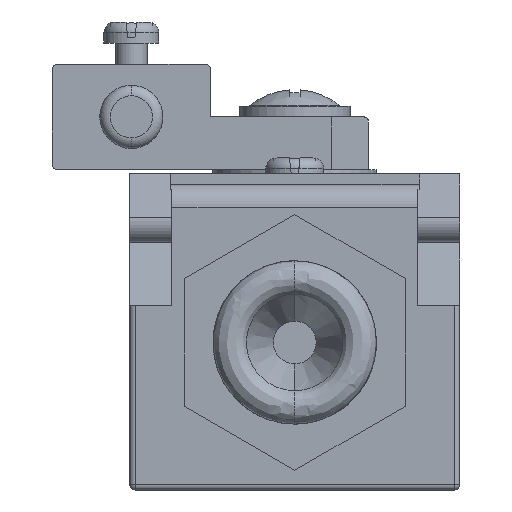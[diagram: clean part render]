
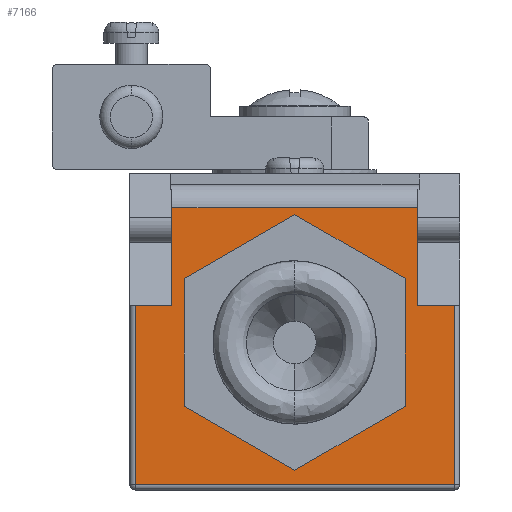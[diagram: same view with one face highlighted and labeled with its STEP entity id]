
A CAD part, front view. The second image highlights one B-rep face of the part: STEP entity #7166.
In plain terms, the highlighted planar face has unit normal (0, -1, 0).
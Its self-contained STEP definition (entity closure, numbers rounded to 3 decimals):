
#508 = ORIENTED_EDGE ( 'NONE', *, *, #6828, .F. ) ;
#673 = ORIENTED_EDGE ( 'NONE', *, *, #6687, .T. ) ;
#675 = ORIENTED_EDGE ( 'NONE', *, *, #6686, .T. ) ;
#677 = ORIENTED_EDGE ( 'NONE', *, *, #6688, .T. ) ;
#678 = ORIENTED_EDGE ( 'NONE', *, *, #7143, .T. ) ;
#679 = ORIENTED_EDGE ( 'NONE', *, *, #6891, .T. ) ;
#894 = LINE ( 'NONE', #895, #2763 ) ;
#895 = CARTESIAN_POINT ( 'NONE',  ( 0., -30., 15.424 ) ) ;
#896 = DIRECTION ( 'NONE',  ( -0.866, 0., -0.5 ) ) ;
#924 = LINE ( 'NONE', #925, #2748 ) ;
#925 = CARTESIAN_POINT ( 'NONE',  ( 10.5, -30., 9.362 ) ) ;
#926 = DIRECTION ( 'NONE',  ( -0.866, 0., 0.5 ) ) ;
#933 = LINE ( 'NONE', #934, #2798 ) ;
#934 = CARTESIAN_POINT ( 'NONE',  ( -15.15, -30., 10.7 ) ) ;
#935 = DIRECTION ( 'NONE',  ( 0., 0., -1. ) ) ;
#939 = LINE ( 'NONE', #940, #2824 ) ;
#940 = CARTESIAN_POINT ( 'NONE',  ( -10.5, -30., -2.762 ) ) ;
#941 = DIRECTION ( 'NONE',  ( 0.866, 0., -0.5 ) ) ;
#945 = LINE ( 'NONE', #946, #2623 ) ;
#946 = CARTESIAN_POINT ( 'NONE',  ( 15.15, -30., 10.7 ) ) ;
#947 = DIRECTION ( 'NONE',  ( 0., 0., 1. ) ) ;
#957 = LINE ( 'NONE', #958, #2791 ) ;
#958 = CARTESIAN_POINT ( 'NONE',  ( 11.65, -30., 6.8 ) ) ;
#959 = DIRECTION ( 'NONE',  ( 0., 0., -1. ) ) ;
#1147 = PLANE ( 'NONE',  #2772 ) ;
#1148 = CARTESIAN_POINT ( 'NONE',  ( -15.65, -30., 19.3 ) ) ;
#1149 = DIRECTION ( 'NONE',  ( 0., 1., 0. ) ) ;
#1150 = DIRECTION ( 'NONE',  ( 0., 0., 1. ) ) ;
#2623 = VECTOR ( 'NONE', #947, 1000. ) ;
#2748 = VECTOR ( 'NONE', #926, 1000. ) ;
#2763 = VECTOR ( 'NONE', #896, 1000. ) ;
#2772 = AXIS2_PLACEMENT_3D ( 'NONE', #1148, #1149, #1150 ) ;
#2782 = FACE_BOUND ( 'NONE', #5273, .T. ) ;
#2783 = FACE_OUTER_BOUND ( 'NONE', #5271, .T. ) ;
#2791 = VECTOR ( 'NONE', #959, 1000. ) ;
#2798 = VECTOR ( 'NONE', #935, 1000. ) ;
#2824 = VECTOR ( 'NONE', #941, 1000. ) ;
#3156 = VECTOR ( 'NONE', #6475, 1000. ) ;
#3158 = VECTOR ( 'NONE', #6472, 1000. ) ;
#3159 = VECTOR ( 'NONE', #6469, 1000. ) ;
#3161 = VECTOR ( 'NONE', #6466, 1000. ) ;
#4408 = VECTOR ( 'NONE', #8279, 1000. ) ;
#4432 = VECTOR ( 'NONE', #8276, 1000. ) ;
#4606 = VECTOR ( 'NONE', #8471, 1000. ) ;
#4610 = VECTOR ( 'NONE', #8468, 1000. ) ;
#5271 = EDGE_LOOP ( 'NONE', ( #673, #677, #675, #678, #679, #9803, #9801, #9809 ) ) ;
#5273 = EDGE_LOOP ( 'NONE', ( #9802, #9811, #9812, #9806, #9799, #508 ) ) ;
#5589 = VERTEX_POINT ( 'NONE', #6131 ) ;
#5590 = VERTEX_POINT ( 'NONE', #6132 ) ;
#5591 = VERTEX_POINT ( 'NONE', #6133 ) ;
#5592 = VERTEX_POINT ( 'NONE', #6134 ) ;
#5593 = VERTEX_POINT ( 'NONE', #6135 ) ;
#5594 = VERTEX_POINT ( 'NONE', #6136 ) ;
#5595 = VERTEX_POINT ( 'NONE', #6137 ) ;
#5596 = VERTEX_POINT ( 'NONE', #6138 ) ;
#5597 = VERTEX_POINT ( 'NONE', #6139 ) ;
#5598 = VERTEX_POINT ( 'NONE', #6140 ) ;
#5599 = VERTEX_POINT ( 'NONE', #6141 ) ;
#5600 = VERTEX_POINT ( 'NONE', #6142 ) ;
#5601 = VERTEX_POINT ( 'NONE', #6143 ) ;
#5602 = VERTEX_POINT ( 'NONE', #6144 ) ;
#6131 = CARTESIAN_POINT ( 'NONE',  ( 10.5, -30., -2.762 ) ) ;
#6132 = CARTESIAN_POINT ( 'NONE',  ( 10.5, -30., 9.362 ) ) ;
#6133 = CARTESIAN_POINT ( 'NONE',  ( 0., -30., 15.424 ) ) ;
#6134 = CARTESIAN_POINT ( 'NONE',  ( -10.5, -30., 9.362 ) ) ;
#6135 = CARTESIAN_POINT ( 'NONE',  ( 0., -30., -8.824 ) ) ;
#6136 = CARTESIAN_POINT ( 'NONE',  ( -10.5, -30., -2.762 ) ) ;
#6137 = CARTESIAN_POINT ( 'NONE',  ( 11.65, -30., 6.8 ) ) ;
#6138 = CARTESIAN_POINT ( 'NONE',  ( 15.15, -30., 6.8 ) ) ;
#6139 = CARTESIAN_POINT ( 'NONE',  ( 15.15, -30., -10.2 ) ) ;
#6140 = CARTESIAN_POINT ( 'NONE',  ( -15.15, -30., -10.2 ) ) ;
#6141 = CARTESIAN_POINT ( 'NONE',  ( -15.15, -30., 6.8 ) ) ;
#6142 = CARTESIAN_POINT ( 'NONE',  ( -11.65, -30., 6.8 ) ) ;
#6143 = CARTESIAN_POINT ( 'NONE',  ( -11.65, -30., 16.071 ) ) ;
#6144 = CARTESIAN_POINT ( 'NONE',  ( 11.65, -30., 16.071 ) ) ;
#6464 = LINE ( 'NONE', #6465, #3161 ) ;
#6465 = CARTESIAN_POINT ( 'NONE',  ( 11.65, -30., 6.8 ) ) ;
#6466 = DIRECTION ( 'NONE',  ( 1., 0., 0. ) ) ;
#6467 = LINE ( 'NONE', #6468, #3159 ) ;
#6468 = CARTESIAN_POINT ( 'NONE',  ( -11.65, -30., 6.8 ) ) ;
#6469 = DIRECTION ( 'NONE',  ( -1., 0., 0. ) ) ;
#6470 = LINE ( 'NONE', #6471, #3158 ) ;
#6471 = CARTESIAN_POINT ( 'NONE',  ( -15.65, -30., 16.071 ) ) ;
#6472 = DIRECTION ( 'NONE',  ( -1., 0., 0. ) ) ;
#6473 = LINE ( 'NONE', #6474, #3156 ) ;
#6474 = CARTESIAN_POINT ( 'NONE',  ( -11.65, -30., 6.8 ) ) ;
#6475 = DIRECTION ( 'NONE',  ( 0., 0., -1. ) ) ;
#6685 = EDGE_CURVE ( 'NONE', #5595, #5596, #6464, .T. ) ;
#6686 = EDGE_CURVE ( 'NONE', #5600, #5599, #6467, .T. ) ;
#6687 = EDGE_CURVE ( 'NONE', #5602, #5601, #6470, .T. ) ;
#6688 = EDGE_CURVE ( 'NONE', #5601, #5600, #6473, .T. ) ;
#6827 = EDGE_CURVE ( 'NONE', #5589, #5590, #8274, .T. ) ;
#6828 = EDGE_CURVE ( 'NONE', #5593, #5589, #8277, .T. ) ;
#6891 = EDGE_CURVE ( 'NONE', #5598, #5597, #8466, .T. ) ;
#6892 = EDGE_CURVE ( 'NONE', #5592, #5594, #8469, .T. ) ;
#7130 = EDGE_CURVE ( 'NONE', #5591, #5592, #894, .T. ) ;
#7140 = EDGE_CURVE ( 'NONE', #5590, #5591, #924, .T. ) ;
#7143 = EDGE_CURVE ( 'NONE', #5599, #5598, #933, .T. ) ;
#7145 = EDGE_CURVE ( 'NONE', #5594, #5593, #939, .T. ) ;
#7147 = EDGE_CURVE ( 'NONE', #5597, #5596, #945, .T. ) ;
#7151 = EDGE_CURVE ( 'NONE', #5602, #5595, #957, .T. ) ;
#7166 = ADVANCED_FACE ( 'NONE', ( #2783, #2782 ), #1147, .F. ) ;
#8274 = LINE ( 'NONE', #8275, #4432 ) ;
#8275 = CARTESIAN_POINT ( 'NONE',  ( 10.5, -30., -2.762 ) ) ;
#8276 = DIRECTION ( 'NONE',  ( 0., 0., 1. ) ) ;
#8277 = LINE ( 'NONE', #8278, #4408 ) ;
#8278 = CARTESIAN_POINT ( 'NONE',  ( 0., -30., -8.824 ) ) ;
#8279 = DIRECTION ( 'NONE',  ( 0.866, 0., 0.5 ) ) ;
#8466 = LINE ( 'NONE', #8467, #4610 ) ;
#8467 = CARTESIAN_POINT ( 'NONE',  ( 15.65, -30., -10.2 ) ) ;
#8468 = DIRECTION ( 'NONE',  ( 1., 0., 0. ) ) ;
#8469 = LINE ( 'NONE', #8470, #4606 ) ;
#8470 = CARTESIAN_POINT ( 'NONE',  ( -10.5, -30., 9.362 ) ) ;
#8471 = DIRECTION ( 'NONE',  ( 0., 0., -1. ) ) ;
#9799 = ORIENTED_EDGE ( 'NONE', *, *, #6827, .F. ) ;
#9801 = ORIENTED_EDGE ( 'NONE', *, *, #6685, .F. ) ;
#9802 = ORIENTED_EDGE ( 'NONE', *, *, #7145, .F. ) ;
#9803 = ORIENTED_EDGE ( 'NONE', *, *, #7147, .T. ) ;
#9806 = ORIENTED_EDGE ( 'NONE', *, *, #7140, .F. ) ;
#9809 = ORIENTED_EDGE ( 'NONE', *, *, #7151, .F. ) ;
#9811 = ORIENTED_EDGE ( 'NONE', *, *, #6892, .F. ) ;
#9812 = ORIENTED_EDGE ( 'NONE', *, *, #7130, .F. ) ;
